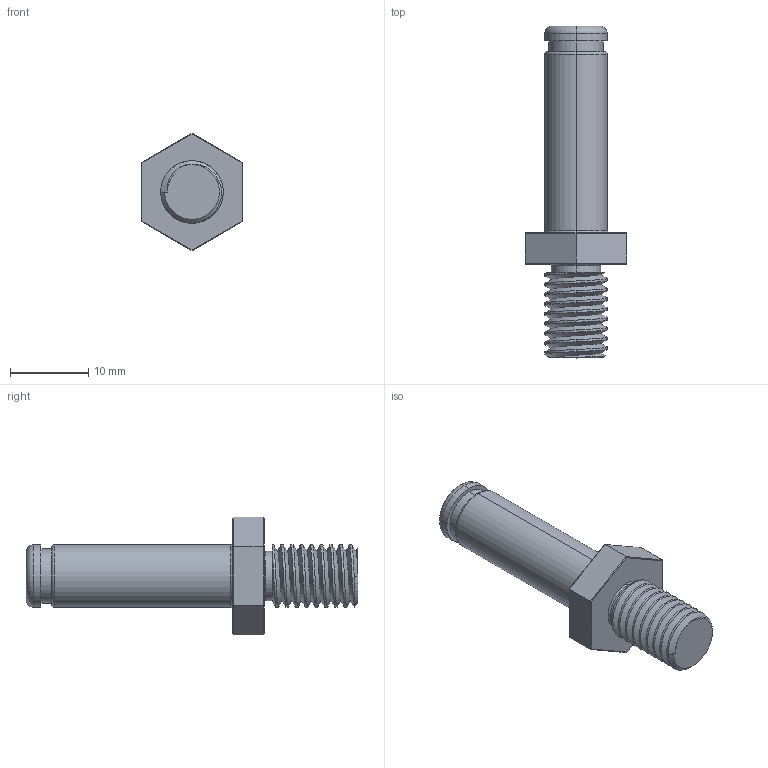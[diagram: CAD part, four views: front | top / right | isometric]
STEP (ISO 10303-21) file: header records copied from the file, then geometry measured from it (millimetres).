
FILE_DESCRIPTION (( 'STEP AP203' ), '1' );
FILE_NAME ('AC-CP000105^AC-CP000154^AC-CP000181_RadLok Pin 8.0mm.STEP', '2014-02-20T02:08:19', ( 'gasf' ), ( '' ), 'SwSTEP 2.0', 'SolidWorks 2012', '' );
FILE_SCHEMA (( 'CONFIG_CONTROL_DESIGN' ));
Length unit declared in the file: millimetre
Products named in the file (1): AC-CP000105^AC-CP000154^AC-CP000181_RadLok Pin 8.0mm
Bounding box: 13 x 42.4 x 15.01 mm (x, y, z)
Volume: 2387.7 mm3; surface area: 1613.7 mm2
Topology: 1 solids, 1 shells, 66 faces, 156 edges, 97 vertices
Faces by surface type: plane 27, cylinder 26, torus 8, cone 3, bspline 2
Entity records: 2924 total; most frequent: CARTESIAN_POINT 1427, ORIENTED_EDGE 312, DIRECTION 281, EDGE_CURVE 156, AXIS2_PLACEMENT_3D 103, VERTEX_POINT 97, VECTOR 75, LINE 75
